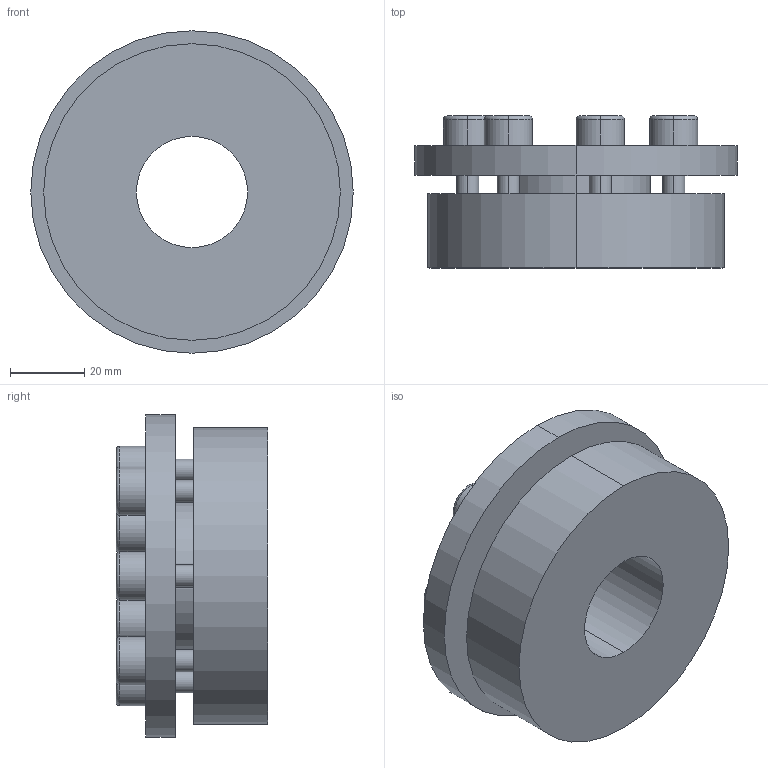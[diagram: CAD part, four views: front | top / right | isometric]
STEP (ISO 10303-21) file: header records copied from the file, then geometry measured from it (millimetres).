
FILE_DESCRIPTION (( 'STEP AP203' ), '1' );
FILE_NAME ('PL-H4 30-80.STEP', '2021-10-23T01:20:30', ( '' ), ( '' ), 'SwSTEP 2.0', 'SolidWorks 2018', '' );
FILE_SCHEMA (( 'CONFIG_CONTROL_DESIGN' ));
Length unit declared in the file: millimetre
Products named in the file (1): PL-H4 30-80
Bounding box: 87 x 41 x 87 mm (x, y, z)
Volume: 138535.7 mm3; surface area: 31974.2 mm2
Topology: 1 solids, 1 shells, 110 faces, 262 edges, 170 vertices
Faces by surface type: plane 60, cylinder 36, torus 14
Entity records: 3303 total; most frequent: DIRECTION 584, CARTESIAN_POINT 543, ORIENTED_EDGE 524, EDGE_CURVE 262, AXIS2_PLACEMENT_3D 211, VERTEX_POINT 170, VECTOR 162, LINE 162
